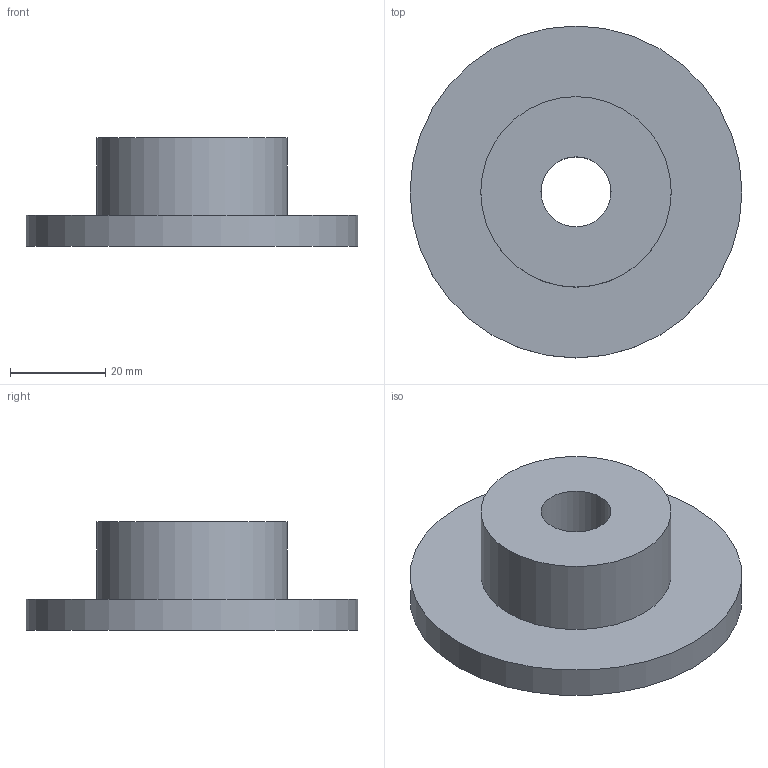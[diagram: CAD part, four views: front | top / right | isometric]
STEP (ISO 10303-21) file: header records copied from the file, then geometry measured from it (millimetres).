
FILE_DESCRIPTION(('Mechanical CAD reference from nasji.com'),'2;1');
FILE_NAME('NASJI.step','',(''),(''),'','NASJI distribution','');
FILE_SCHEMA(('AUTOMOTIVE_DESIGN { 1 0 10303 214 1 1 1 1 }'));
Length unit declared in the file: millimetre
Products named in the file (1): Open CASCADE STEP translator 7.8 134
Bounding box: 69.7 x 69.7 x 22.7 mm (x, y, z)
Volume: 41305.9 mm3; surface area: 11799 mm2
Topology: 1 solids, 1 shells, 6 faces, 9 edges, 6 vertices
Faces by surface type: plane 3, cylinder 3
Full cylindrical faces by diameter (mm): 14.7 x1, 40 x1, 69.7 x1
Entity records: 270 total; most frequent: DIRECTION 47, CARTESIAN_POINT 40, ORIENTED_EDGE 18, PCURVE 18, DEFINITIONAL_REPRESENTATION 18, LINE 15, VECTOR 15, AXIS2_PLACEMENT_3D 13
